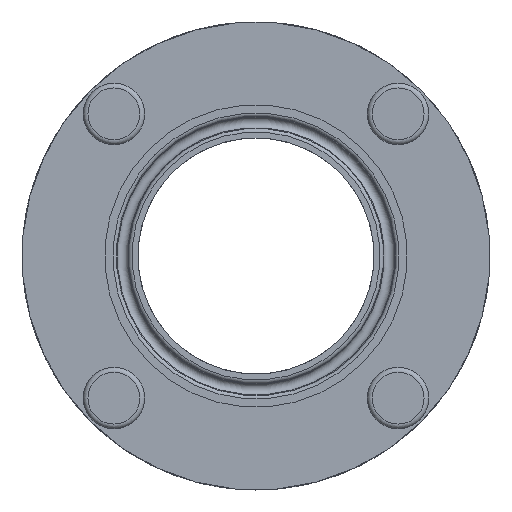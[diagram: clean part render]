
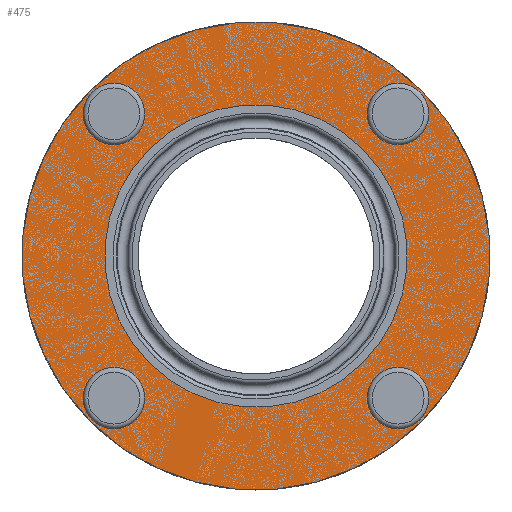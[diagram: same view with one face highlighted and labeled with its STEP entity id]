
A CAD part, front view. The second image highlights one B-rep face of the part: STEP entity #475.
In plain terms, the highlighted planar face has unit normal (0, -1, 0).
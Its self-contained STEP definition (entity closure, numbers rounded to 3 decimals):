
#475=ADVANCED_FACE('',(#687,#688,#689,#690,#691,#692),#539,.T.);
#539=PLANE('',#2278);
#687=FACE_BOUND('',#949,.T.);
#688=FACE_BOUND('',#950,.T.);
#689=FACE_BOUND('',#951,.T.);
#690=FACE_BOUND('',#952,.T.);
#691=FACE_BOUND('',#953,.T.);
#692=FACE_BOUND('',#954,.T.);
#949=EDGE_LOOP('',(#1379));
#950=EDGE_LOOP('',(#1380));
#951=EDGE_LOOP('',(#1381));
#952=EDGE_LOOP('',(#1382));
#953=EDGE_LOOP('',(#1383));
#954=EDGE_LOOP('',(#1384));
#1379=ORIENTED_EDGE('',*,*,#1804,.T.);
#1380=ORIENTED_EDGE('',*,*,#1805,.T.);
#1381=ORIENTED_EDGE('',*,*,#1806,.T.);
#1382=ORIENTED_EDGE('',*,*,#1807,.T.);
#1383=ORIENTED_EDGE('',*,*,#1808,.T.);
#1384=ORIENTED_EDGE('',*,*,#1803,.F.);
#1588=VERTEX_POINT('',#3513);
#1589=VERTEX_POINT('',#3516);
#1590=VERTEX_POINT('',#3518);
#1591=VERTEX_POINT('',#3520);
#1592=VERTEX_POINT('',#3522);
#1593=VERTEX_POINT('',#3524);
#1803=EDGE_CURVE('',#1588,#1588,#1970,.T.);
#1804=EDGE_CURVE('',#1589,#1589,#1971,.T.);
#1805=EDGE_CURVE('',#1590,#1590,#1972,.T.);
#1806=EDGE_CURVE('',#1591,#1591,#1973,.T.);
#1807=EDGE_CURVE('',#1592,#1592,#1974,.T.);
#1808=EDGE_CURVE('',#1593,#1593,#1975,.T.);
#1970=CIRCLE('',#2271,49.5);
#1971=CIRCLE('',#2273,29.);
#1972=CIRCLE('',#2274,4.25);
#1973=CIRCLE('',#2275,4.25);
#1974=CIRCLE('',#2276,4.25);
#1975=CIRCLE('',#2277,4.25);
#2271=AXIS2_PLACEMENT_3D('',#3512,#2917,#2918);
#2273=AXIS2_PLACEMENT_3D('',#3515,#2921,#2922);
#2274=AXIS2_PLACEMENT_3D('',#3517,#2923,#2924);
#2275=AXIS2_PLACEMENT_3D('',#3519,#2925,#2926);
#2276=AXIS2_PLACEMENT_3D('',#3521,#2927,#2928);
#2277=AXIS2_PLACEMENT_3D('',#3523,#2929,#2930);
#2278=AXIS2_PLACEMENT_3D('',#3525,#2931,#2932);
#2917=DIRECTION('',(0.,1.,0.));
#2918=DIRECTION('',(0.,0.,1.));
#2921=DIRECTION('',(0.,1.,0.));
#2922=DIRECTION('',(0.,0.,-1.));
#2923=DIRECTION('',(0.,1.,0.));
#2924=DIRECTION('',(-1.,0.,0.));
#2925=DIRECTION('',(0.,1.,0.));
#2926=DIRECTION('',(0.,0.,-1.));
#2927=DIRECTION('',(0.,1.,0.));
#2928=DIRECTION('',(1.,0.,0.));
#2929=DIRECTION('',(0.,1.,0.));
#2930=DIRECTION('',(0.,0.,1.));
#2931=DIRECTION('',(0.,-1.,0.));
#2932=DIRECTION('',(0.,0.,-1.));
#3512=CARTESIAN_POINT('',(0.,0.,0.));
#3513=CARTESIAN_POINT('',(0.,0.,49.5));
#3515=CARTESIAN_POINT('',(0.,0.,0.));
#3516=CARTESIAN_POINT('',(0.,0.,-29.));
#3517=CARTESIAN_POINT('',(-42.5,0.,0.));
#3518=CARTESIAN_POINT('',(-46.75,0.,0.));
#3519=CARTESIAN_POINT('',(0.,0.,-42.5));
#3520=CARTESIAN_POINT('',(0.,0.,-46.75));
#3521=CARTESIAN_POINT('',(42.5,0.,0.));
#3522=CARTESIAN_POINT('',(46.75,0.,0.));
#3523=CARTESIAN_POINT('',(0.,0.,42.5));
#3524=CARTESIAN_POINT('',(0.,0.,46.75));
#3525=CARTESIAN_POINT('',(0.,0.,0.));
